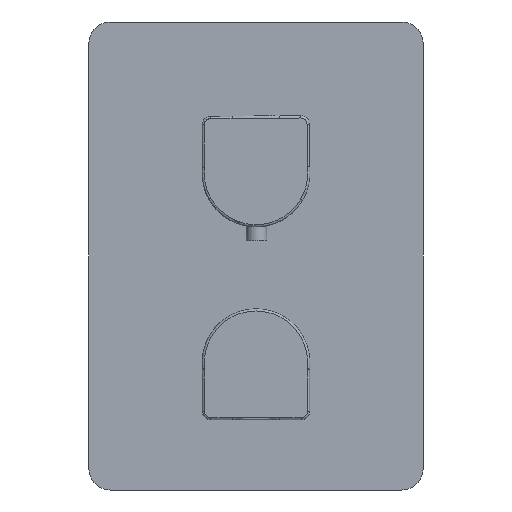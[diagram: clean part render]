
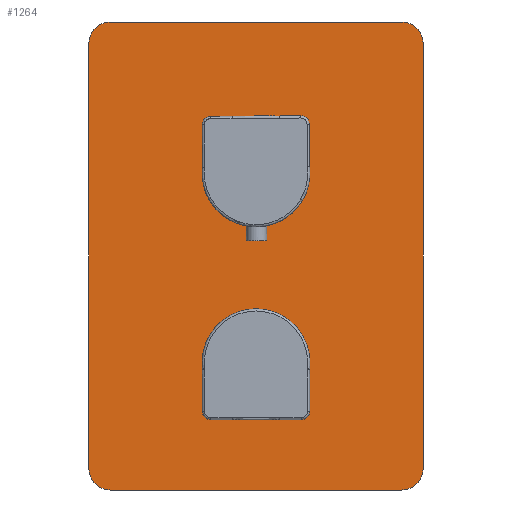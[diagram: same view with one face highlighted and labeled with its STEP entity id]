
A CAD part, left-side view. The second image highlights one B-rep face of the part: STEP entity #1264.
In plain terms, the highlighted planar face has unit normal (-1, 0, 0).
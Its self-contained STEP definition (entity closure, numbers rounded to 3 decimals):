
#1 = DIRECTION ( 'NONE',  ( 1., 0., 0. ) ) ;
#61 = LINE ( 'NONE', #2531, #2621 ) ;
#73 = EDGE_CURVE ( 'NONE', #492, #2416, #1773, .T. ) ;
#166 = CARTESIAN_POINT ( 'NONE',  ( -288.473, 0.566, -117.911 ) ) ;
#203 = DIRECTION ( 'NONE',  ( 1., 0., 0. ) ) ;
#204 = ORIENTED_EDGE ( 'NONE', *, *, #1150, .F. ) ;
#218 = DIRECTION ( 'NONE',  ( 0., 0., -1. ) ) ;
#254 = ORIENTED_EDGE ( 'NONE', *, *, #850, .F. ) ;
#318 = LINE ( 'NONE', #2068, #1581 ) ;
#326 = VERTEX_POINT ( 'NONE', #2815 ) ;
#330 = ORIENTED_EDGE ( 'NONE', *, *, #2084, .F. ) ;
#450 = CARTESIAN_POINT ( 'NONE',  ( -288.473, -66.934, 40.089 ) ) ;
#469 = EDGE_CURVE ( 'NONE', #1068, #492, #1549, .T. ) ;
#481 = CIRCLE ( 'NONE', #1889, 25. ) ;
#492 = VERTEX_POINT ( 'NONE', #2745 ) ;
#528 = VERTEX_POINT ( 'NONE', #1318 ) ;
#532 = ORIENTED_EDGE ( 'NONE', *, *, #1405, .F. ) ;
#536 = DIRECTION ( 'NONE',  ( 0., 0., 1. ) ) ;
#552 = CARTESIAN_POINT ( 'NONE',  ( -288.473, 78.066, -159.911 ) ) ;
#592 = AXIS2_PLACEMENT_3D ( 'NONE', #1646, #1402, #1418 ) ;
#605 = EDGE_LOOP ( 'NONE', ( #254 ) ) ;
#687 = CARTESIAN_POINT ( 'NONE',  ( -288.473, 78.066, 30.089 ) ) ;
#805 = VERTEX_POINT ( 'NONE', #2959 ) ;
#808 = LINE ( 'NONE', #1608, #1008 ) ;
#827 = DIRECTION ( 'NONE',  ( 0., 0., -1. ) ) ;
#850 = EDGE_CURVE ( 'NONE', #326, #326, #481, .T. ) ;
#861 = CIRCLE ( 'NONE', #1270, 25. ) ;
#908 = CIRCLE ( 'NONE', #2047, 10. ) ;
#972 = ORIENTED_EDGE ( 'NONE', *, *, #1111, .F. ) ;
#1008 = VECTOR ( 'NONE', #827, 1000. ) ;
#1053 = CARTESIAN_POINT ( 'NONE',  ( -288.473, -76.934, 30.089 ) ) ;
#1068 = VERTEX_POINT ( 'NONE', #2452 ) ;
#1111 = EDGE_CURVE ( 'NONE', #528, #2533, #61, .T. ) ;
#1127 = DIRECTION ( 'NONE',  ( 0., 0., -1. ) ) ;
#1131 = CARTESIAN_POINT ( 'NONE',  ( -288.473, 0.566, -54.911 ) ) ;
#1150 = EDGE_CURVE ( 'NONE', #805, #1068, #318, .T. ) ;
#1226 = EDGE_LOOP ( 'NONE', ( #2349, #532, #2083, #972, #330, #1721, #1365, #204 ) ) ;
#1228 = DIRECTION ( 'NONE',  ( 1., 0., 0. ) ) ;
#1264 = ADVANCED_FACE ( 'NONE', ( #2412, #2888, #2626 ), #1853, .F. ) ;
#1270 = AXIS2_PLACEMENT_3D ( 'NONE', #1731, #1, #2463 ) ;
#1318 = CARTESIAN_POINT ( 'NONE',  ( -288.473, 68.066, 40.089 ) ) ;
#1329 = CARTESIAN_POINT ( 'NONE',  ( -288.473, -66.934, 30.089 ) ) ;
#1350 = VERTEX_POINT ( 'NONE', #1053 ) ;
#1359 = DIRECTION ( 'NONE',  ( 1., 0., 0. ) ) ;
#1365 = ORIENTED_EDGE ( 'NONE', *, *, #469, .F. ) ;
#1402 = DIRECTION ( 'NONE',  ( 1., 0., 0. ) ) ;
#1405 = EDGE_CURVE ( 'NONE', #1350, #1770, #808, .T. ) ;
#1418 = DIRECTION ( 'NONE',  ( 0., 0., -1. ) ) ;
#1429 = CIRCLE ( 'NONE', #3152, 10. ) ;
#1491 = EDGE_CURVE ( 'NONE', #2533, #1350, #2990, .T. ) ;
#1517 = DIRECTION ( 'NONE',  ( 1., 0., 0. ) ) ;
#1549 = CIRCLE ( 'NONE', #2275, 10. ) ;
#1581 = VECTOR ( 'NONE', #2265, 1000. ) ;
#1608 = CARTESIAN_POINT ( 'NONE',  ( -288.473, -76.934, -159.911 ) ) ;
#1646 = CARTESIAN_POINT ( 'NONE',  ( -288.473, 78.066, -159.911 ) ) ;
#1721 = ORIENTED_EDGE ( 'NONE', *, *, #73, .F. ) ;
#1731 = CARTESIAN_POINT ( 'NONE',  ( -288.473, 0.566, -29.911 ) ) ;
#1770 = VERTEX_POINT ( 'NONE', #2071 ) ;
#1773 = LINE ( 'NONE', #552, #2220 ) ;
#1853 = PLANE ( 'NONE',  #592 ) ;
#1889 = AXIS2_PLACEMENT_3D ( 'NONE', #166, #2151, #1127 ) ;
#1929 = CARTESIAN_POINT ( 'NONE',  ( -288.473, 68.066, 30.089 ) ) ;
#1987 = EDGE_CURVE ( 'NONE', #1770, #805, #1429, .T. ) ;
#2030 = DIRECTION ( 'NONE',  ( 0., 0., 1. ) ) ;
#2032 = DIRECTION ( 'NONE',  ( 0., -1., 0. ) ) ;
#2047 = AXIS2_PLACEMENT_3D ( 'NONE', #1929, #203, #2700 ) ;
#2068 = CARTESIAN_POINT ( 'NONE',  ( -288.473, 78.066, -176.911 ) ) ;
#2071 = CARTESIAN_POINT ( 'NONE',  ( -288.473, -76.934, -166.911 ) ) ;
#2083 = ORIENTED_EDGE ( 'NONE', *, *, #1491, .F. ) ;
#2084 = EDGE_CURVE ( 'NONE', #2416, #528, #908, .T. ) ;
#2151 = DIRECTION ( 'NONE',  ( -1., 0., 0. ) ) ;
#2220 = VECTOR ( 'NONE', #2030, 1000. ) ;
#2265 = DIRECTION ( 'NONE',  ( 0., 1., 0. ) ) ;
#2275 = AXIS2_PLACEMENT_3D ( 'NONE', #2316, #1517, #536 ) ;
#2308 = AXIS2_PLACEMENT_3D ( 'NONE', #1329, #1359, #2341 ) ;
#2316 = CARTESIAN_POINT ( 'NONE',  ( -288.473, 68.066, -166.911 ) ) ;
#2341 = DIRECTION ( 'NONE',  ( 0., 0., 1. ) ) ;
#2349 = ORIENTED_EDGE ( 'NONE', *, *, #1987, .F. ) ;
#2412 = FACE_BOUND ( 'NONE', #605, .T. ) ;
#2416 = VERTEX_POINT ( 'NONE', #687 ) ;
#2452 = CARTESIAN_POINT ( 'NONE',  ( -288.473, 68.066, -176.911 ) ) ;
#2463 = DIRECTION ( 'NONE',  ( 0., 0., -1. ) ) ;
#2471 = CARTESIAN_POINT ( 'NONE',  ( -288.473, -66.934, -166.911 ) ) ;
#2531 = CARTESIAN_POINT ( 'NONE',  ( -288.473, 78.066, 40.089 ) ) ;
#2533 = VERTEX_POINT ( 'NONE', #450 ) ;
#2615 = VERTEX_POINT ( 'NONE', #1131 ) ;
#2621 = VECTOR ( 'NONE', #2032, 1000. ) ;
#2626 = FACE_OUTER_BOUND ( 'NONE', #1226, .T. ) ;
#2700 = DIRECTION ( 'NONE',  ( 0., 0., -1. ) ) ;
#2745 = CARTESIAN_POINT ( 'NONE',  ( -288.473, 78.066, -166.911 ) ) ;
#2815 = CARTESIAN_POINT ( 'NONE',  ( -288.473, 0.566, -142.911 ) ) ;
#2888 = FACE_BOUND ( 'NONE', #3102, .T. ) ;
#2959 = CARTESIAN_POINT ( 'NONE',  ( -288.473, -66.934, -176.911 ) ) ;
#2990 = CIRCLE ( 'NONE', #2308, 10. ) ;
#3027 = EDGE_CURVE ( 'NONE', #2615, #2615, #861, .T. ) ;
#3102 = EDGE_LOOP ( 'NONE', ( #3140 ) ) ;
#3140 = ORIENTED_EDGE ( 'NONE', *, *, #3027, .T. ) ;
#3152 = AXIS2_PLACEMENT_3D ( 'NONE', #2471, #1228, #218 ) ;
